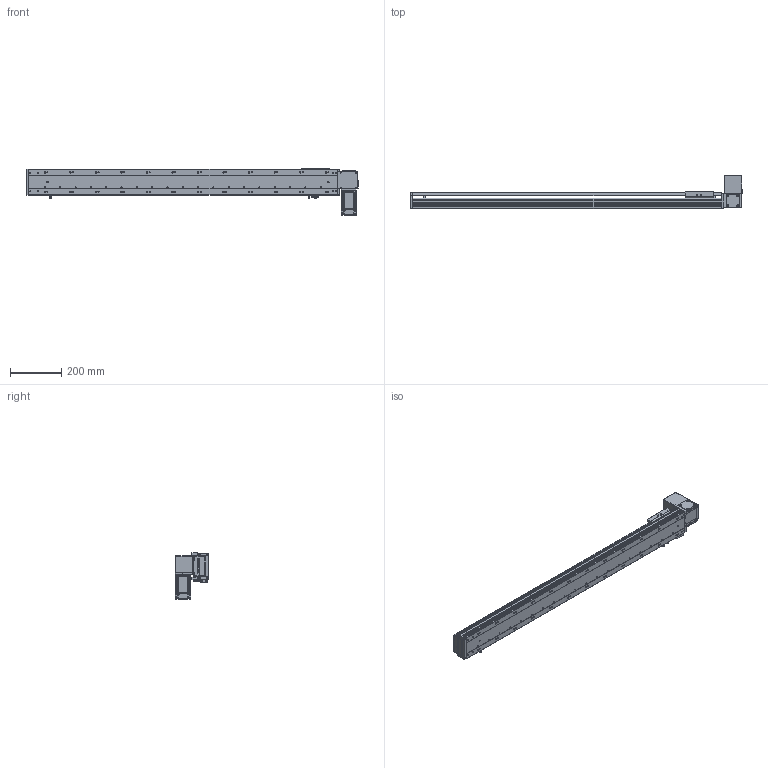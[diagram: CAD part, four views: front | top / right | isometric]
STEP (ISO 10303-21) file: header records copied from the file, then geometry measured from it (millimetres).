
FILE_DESCRIPTION (( 'STEP AP203' ), '1' );
FILE_NAME ('RY100-T-300-UL.SLDASM_1000.step', '2024-04-25T08:40:02', ( '盈信电脑' ), ( '东莞市道滘镇水果街19号' ), 'SwSTEP 2.0', 'SolidWorks 2016', '' );
FILE_SCHEMA (( 'CONFIG_CONTROL_DESIGN' ));
Length unit declared in the file: millimetre
Products named in the file (15): RY80-T肮祭謫奻殏俋欶; RY100-T肮祭謫臏賑輸; RY100-T-300-RK倰第奻裔_1000; RY100-T-300-RK倰第菁釱_1000; RY100-T翋肮祭謫裔啣; RY100綴裔啣; 1; 覜茼ん672; RY100-T左右折电机安装板; RY100俋离覜茼え; 滅袉蝶18-10; RY100-T-300-UL.SLDASM_1000; RY100-T翋肮祭謫裔啣2; RY100-T粣創揤踡裔; RY100-T肮祭謫翋盓傅釱
Assembly tree (17 placements, depth 2):
  RY100-T-300-UL.SLDASM_1000
    RY100-T-300-RK倰第菁釱_1000
    RY100-T-300-RK倰第奻裔_1000
    RY100-T肮祭謫臏賑輸
    RY100綴裔啣
    覜茼ん672  x3
    RY100俋离覜茼え
    RY100-T肮祭謫翋盓傅釱
    滅袉蝶18-10  x2
    RY100-T翋肮祭謫裔啣2
    RY100-T翋肮祭謫裔啣
    1
    RY100-T左右折电机安装板
    RY80-T肮祭謫奻殏俋欶
    RY100-T粣創揤踡裔
Bounding box: 1300 x 130.5 x 182.5 mm (x, y, z)
Volume: 2620512.6 mm3; surface area: 1084354.6 mm2
Topology: 17 solids, 17 shells, 2311 faces, 6470 edges, 4206 vertices
Faces by surface type: plane 1223, cylinder 869, cone 141, bspline 78
Entity records: 75484 total; most frequent: CARTESIAN_POINT 18591, ORIENTED_EDGE 11772, DIRECTION 11156, EDGE_CURVE 5886, VERTEX_POINT 3874, VECTOR 3724, LINE 3724, AXIS2_PLACEMENT_3D 3716
